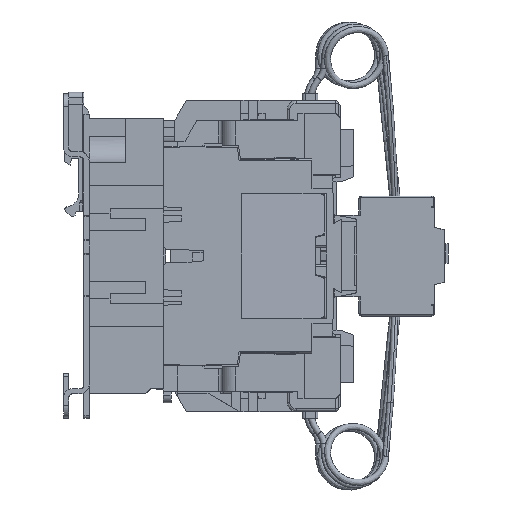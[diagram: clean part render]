
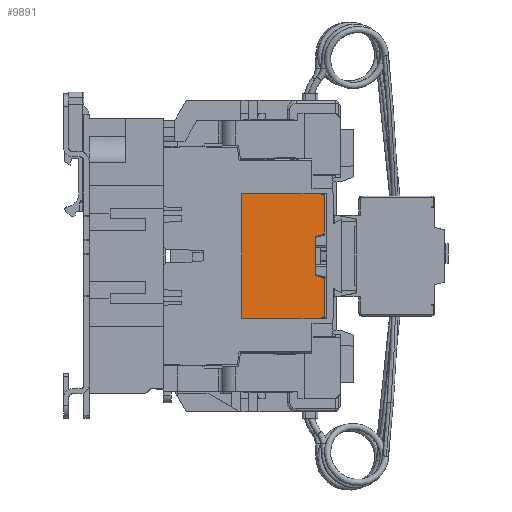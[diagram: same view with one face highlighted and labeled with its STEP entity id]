
A CAD part, left-side view. The second image highlights one B-rep face of the part: STEP entity #9891.
In plain terms, the highlighted planar face has unit normal (-0.996, -0.087, 0).
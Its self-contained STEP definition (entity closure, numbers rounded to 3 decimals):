
#3476=B_SPLINE_CURVE_WITH_KNOTS('',3,(#238856,#238857,#238858,#238859,#238860,
#238861),.UNSPECIFIED.,.F.,.F.,(4,1,1,4),(0.,0.333,0.667,
1.),.UNSPECIFIED.);
#3477=B_SPLINE_CURVE_WITH_KNOTS('',3,(#238865,#238866,#238867,#238868,#238869,
#238870),.UNSPECIFIED.,.F.,.F.,(4,1,1,4),(0.,0.333,0.667,
1.),.UNSPECIFIED.);
#3478=B_SPLINE_CURVE_WITH_KNOTS('',3,(#238878,#238879,#238880,#238881,#238882,
#238883),.UNSPECIFIED.,.F.,.F.,(4,1,1,4),(0.,0.333,0.667,
1.),.UNSPECIFIED.);
#3479=B_SPLINE_CURVE_WITH_KNOTS('',3,(#238887,#238888,#238889,#238890,#238891,
#238892),.UNSPECIFIED.,.F.,.F.,(4,1,1,4),(0.,0.333,0.667,
1.),.UNSPECIFIED.);
#9891=ADVANCED_FACE('',(#22033),#15311,.F.);
#15311=PLANE('',#153534);
#22033=FACE_OUTER_BOUND('',#29290,.T.);
#29290=EDGE_LOOP('',(#70901,#70902,#70903,#70904,#70905,#70906,#70907,#70908,
#70909,#70910,#70911,#70912,#70913,#70914));
#70901=ORIENTED_EDGE('',*,*,#101457,.T.);
#70902=ORIENTED_EDGE('',*,*,#109308,.T.);
#70903=ORIENTED_EDGE('',*,*,#101317,.T.);
#70904=ORIENTED_EDGE('',*,*,#109309,.F.);
#70905=ORIENTED_EDGE('',*,*,#109310,.T.);
#70906=ORIENTED_EDGE('',*,*,#109311,.T.);
#70907=ORIENTED_EDGE('',*,*,#109312,.T.);
#70908=ORIENTED_EDGE('',*,*,#109313,.F.);
#70909=ORIENTED_EDGE('',*,*,#109314,.T.);
#70910=ORIENTED_EDGE('',*,*,#109315,.F.);
#70911=ORIENTED_EDGE('',*,*,#109316,.T.);
#70912=ORIENTED_EDGE('',*,*,#109317,.T.);
#70913=ORIENTED_EDGE('',*,*,#109318,.T.);
#70914=ORIENTED_EDGE('',*,*,#109319,.F.);
#84281=VERTEX_POINT('',#219124);
#84282=VERTEX_POINT('',#219125);
#84372=VERTEX_POINT('',#219424);
#84373=VERTEX_POINT('',#219426);
#88784=VERTEX_POINT('',#238855);
#88785=VERTEX_POINT('',#238862);
#88786=VERTEX_POINT('',#238864);
#88787=VERTEX_POINT('',#238871);
#88788=VERTEX_POINT('',#238873);
#88789=VERTEX_POINT('',#238875);
#88790=VERTEX_POINT('',#238877);
#88791=VERTEX_POINT('',#238884);
#88792=VERTEX_POINT('',#238886);
#88793=VERTEX_POINT('',#238893);
#101317=EDGE_CURVE('',#84281,#84282,#120447,.T.);
#101457=EDGE_CURVE('',#84373,#84372,#120574,.T.);
#109308=EDGE_CURVE('',#84372,#84281,#126238,.T.);
#109309=EDGE_CURVE('',#88784,#84282,#126239,.T.);
#109310=EDGE_CURVE('',#88784,#88785,#3476,.T.);
#109311=EDGE_CURVE('',#88785,#88786,#126240,.T.);
#109312=EDGE_CURVE('',#88786,#88787,#3477,.T.);
#109313=EDGE_CURVE('',#88788,#88787,#126241,.T.);
#109314=EDGE_CURVE('',#88788,#88789,#126242,.T.);
#109315=EDGE_CURVE('',#88790,#88789,#126243,.T.);
#109316=EDGE_CURVE('',#88790,#88791,#3478,.T.);
#109317=EDGE_CURVE('',#88791,#88792,#126244,.T.);
#109318=EDGE_CURVE('',#88792,#88793,#3479,.T.);
#109319=EDGE_CURVE('',#84373,#88793,#126245,.T.);
#120447=LINE('',#219123,#137188);
#120574=LINE('',#219425,#137315);
#126238=LINE('',#238853,#142979);
#126239=LINE('',#238854,#142980);
#126240=LINE('',#238863,#142981);
#126241=LINE('',#238872,#142982);
#126242=LINE('',#238874,#142983);
#126243=LINE('',#238876,#142984);
#126244=LINE('',#238885,#142985);
#126245=LINE('',#238894,#142986);
#137188=VECTOR('',#173073,1.);
#137315=VECTOR('',#173306,1.);
#142979=VECTOR('',#188850,1.);
#142980=VECTOR('',#188851,1.);
#142981=VECTOR('',#188852,1.);
#142982=VECTOR('',#188853,1.);
#142983=VECTOR('',#188854,1.);
#142984=VECTOR('',#188855,1.);
#142985=VECTOR('',#188856,1.);
#142986=VECTOR('',#188857,1.);
#153534=AXIS2_PLACEMENT_3D('',#238895,#188858,#188859);
#173073=DIRECTION('',(0.087,-0.996,0.));
#173306=DIRECTION('',(-0.087,0.996,0.));
#188850=DIRECTION('',(0.,0.,-1.));
#188851=DIRECTION('',(-0.084,0.962,-0.258));
#188852=DIRECTION('',(0.,0.,1.));
#188853=DIRECTION('',(0.084,-0.962,-0.258));
#188854=DIRECTION('',(0.,0.,1.));
#188855=DIRECTION('',(-0.084,0.962,-0.258));
#188856=DIRECTION('',(0.,0.,1.));
#188857=DIRECTION('',(0.084,-0.962,-0.258));
#188858=DIRECTION('',(0.996,0.087,0.));
#188859=DIRECTION('',(0.,0.,1.));
#219123=CARTESIAN_POINT('',(-35.576,-70.024,-24.445));
#219124=CARTESIAN_POINT('',(-38.,-42.318,-24.445));
#219125=CARTESIAN_POINT('',(-35.355,-72.554,-24.445));
#219424=CARTESIAN_POINT('',(-38.,-42.318,24.445));
#219425=CARTESIAN_POINT('',(-35.355,-72.554,24.445));
#219426=CARTESIAN_POINT('',(-35.355,-72.554,24.445));
#238853=CARTESIAN_POINT('',(-38.,-42.318,0.));
#238854=CARTESIAN_POINT('',(-35.232,-73.957,-24.069));
#238855=CARTESIAN_POINT('',(-35.232,-73.957,-24.069));
#238856=CARTESIAN_POINT('',(-35.232,-73.957,-24.069));
#238857=CARTESIAN_POINT('',(-35.223,-74.059,-24.041));
#238858=CARTESIAN_POINT('',(-35.208,-74.232,-23.954));
#238859=CARTESIAN_POINT('',(-35.19,-74.436,-23.688));
#238860=CARTESIAN_POINT('',(-35.187,-74.476,-23.498));
#238861=CARTESIAN_POINT('',(-35.187,-74.476,-23.393));
#238862=CARTESIAN_POINT('',(-35.187,-74.476,-23.393));
#238863=CARTESIAN_POINT('',(-35.187,-74.476,-23.393));
#238864=CARTESIAN_POINT('',(-35.187,-74.476,-9.007));
#238865=CARTESIAN_POINT('',(-35.187,-74.476,-9.007));
#238866=CARTESIAN_POINT('',(-35.187,-74.476,-8.902));
#238867=CARTESIAN_POINT('',(-35.19,-74.436,-8.712));
#238868=CARTESIAN_POINT('',(-35.208,-74.233,-8.446));
#238869=CARTESIAN_POINT('',(-35.223,-74.059,-8.359));
#238870=CARTESIAN_POINT('',(-35.232,-73.957,-8.331));
#238871=CARTESIAN_POINT('',(-35.232,-73.957,-8.331));
#238872=CARTESIAN_POINT('',(-35.486,-71.05,-7.552));
#238873=CARTESIAN_POINT('',(-35.486,-71.05,-7.552));
#238874=CARTESIAN_POINT('',(-35.486,-71.05,-7.552));
#238875=CARTESIAN_POINT('',(-35.486,-71.05,7.552));
#238876=CARTESIAN_POINT('',(-35.232,-73.957,8.331));
#238877=CARTESIAN_POINT('',(-35.232,-73.957,8.331));
#238878=CARTESIAN_POINT('',(-35.232,-73.957,8.331));
#238879=CARTESIAN_POINT('',(-35.223,-74.059,8.359));
#238880=CARTESIAN_POINT('',(-35.208,-74.234,8.447));
#238881=CARTESIAN_POINT('',(-35.19,-74.437,8.714));
#238882=CARTESIAN_POINT('',(-35.187,-74.476,8.903));
#238883=CARTESIAN_POINT('',(-35.187,-74.476,9.007));
#238884=CARTESIAN_POINT('',(-35.187,-74.476,9.007));
#238885=CARTESIAN_POINT('',(-35.187,-74.476,9.007));
#238886=CARTESIAN_POINT('',(-35.187,-74.476,23.393));
#238887=CARTESIAN_POINT('',(-35.187,-74.476,23.393));
#238888=CARTESIAN_POINT('',(-35.187,-74.476,23.498));
#238889=CARTESIAN_POINT('',(-35.19,-74.436,23.688));
#238890=CARTESIAN_POINT('',(-35.208,-74.233,23.954));
#238891=CARTESIAN_POINT('',(-35.223,-74.059,24.041));
#238892=CARTESIAN_POINT('',(-35.232,-73.957,24.069));
#238893=CARTESIAN_POINT('',(-35.232,-73.957,24.069));
#238894=CARTESIAN_POINT('',(-35.355,-72.554,24.445));
#238895=CARTESIAN_POINT('',(-35.6,-69.75,-27.466));
